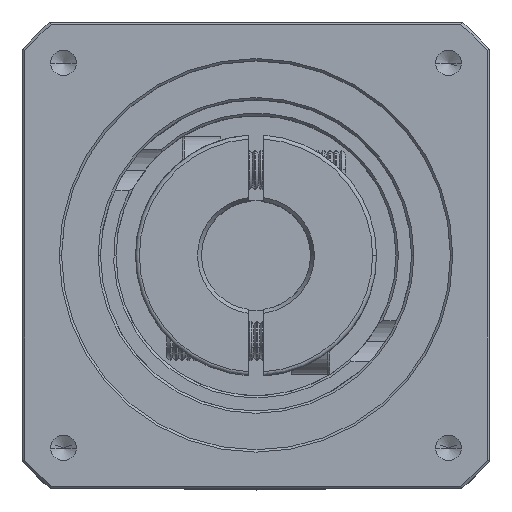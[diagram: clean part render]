
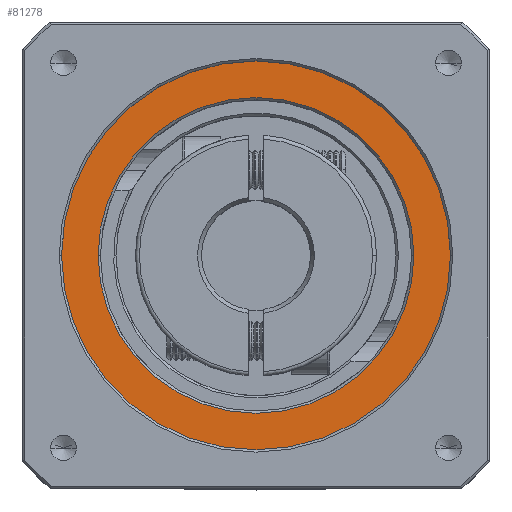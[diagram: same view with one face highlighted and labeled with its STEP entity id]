
A CAD part, top view. The second image highlights one B-rep face of the part: STEP entity #81278.
In plain terms, the highlighted planar face has unit normal (0, 0, 1).
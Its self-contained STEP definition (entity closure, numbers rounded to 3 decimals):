
#4085 = CARTESIAN_POINT ( 'NONE',  ( -41.65, 15.141, 12.222 ) ) ;
#6796 = VERTEX_POINT ( 'NONE', #65804 ) ;
#7591 = CARTESIAN_POINT ( 'NONE',  ( -66.65, 15.141, 12.222 ) ) ;
#8962 = EDGE_CURVE ( 'NONE', #6796, #13189, #37288, .T. ) ;
#13189 = VERTEX_POINT ( 'NONE', #35351 ) ;
#15175 = DIRECTION ( 'NONE',  ( 1., 0., 0. ) ) ;
#17387 = AXIS2_PLACEMENT_3D ( 'NONE', #7591, #60214, #15175 ) ;
#18223 = EDGE_CURVE ( 'NONE', #78092, #88802, #53203, .T. ) ;
#18276 = CIRCLE ( 'NONE', #17387, 25. ) ;
#20321 = FACE_BOUND ( 'NONE', #84818, .T. ) ;
#28158 = CARTESIAN_POINT ( 'NONE',  ( -66.65, 15.141, 12.222 ) ) ;
#31281 = AXIS2_PLACEMENT_3D ( 'NONE', #33604, #86164, #41151 ) ;
#31783 = DIRECTION ( 'NONE',  ( 0., 0., 1. ) ) ;
#31843 = EDGE_CURVE ( 'NONE', #13189, #6796, #60466, .T. ) ;
#32766 = DIRECTION ( 'NONE',  ( 0., 0., -1. ) ) ;
#33604 = CARTESIAN_POINT ( 'NONE',  ( -66.65, 15.141, 12.222 ) ) ;
#35351 = CARTESIAN_POINT ( 'NONE',  ( -46.35, 15.141, 12.222 ) ) ;
#35724 = DIRECTION ( 'NONE',  ( 1., 0., 0. ) ) ;
#37288 = CIRCLE ( 'NONE', #65571, 20.3 ) ;
#41151 = DIRECTION ( 'NONE',  ( 1., 0., 0. ) ) ;
#53203 = CIRCLE ( 'NONE', #31281, 25. ) ;
#55988 = AXIS2_PLACEMENT_3D ( 'NONE', #77732, #32766, #85337 ) ;
#60214 = DIRECTION ( 'NONE',  ( 0., 0., 1. ) ) ;
#60466 = CIRCLE ( 'NONE', #55988, 20.3 ) ;
#62637 = AXIS2_PLACEMENT_3D ( 'NONE', #76743, #31783, #84352 ) ;
#65571 = AXIS2_PLACEMENT_3D ( 'NONE', #28158, #80673, #35724 ) ;
#65804 = CARTESIAN_POINT ( 'NONE',  ( -86.95, 15.141, 12.222 ) ) ;
#67437 = EDGE_CURVE ( 'NONE', #88802, #78092, #18276, .T. ) ;
#69646 = ORIENTED_EDGE ( 'NONE', *, *, #18223, .T. ) ;
#72902 = ORIENTED_EDGE ( 'NONE', *, *, #67437, .T. ) ;
#76416 = PLANE ( 'NONE',  #62637 ) ;
#76743 = CARTESIAN_POINT ( 'NONE',  ( -66.65, 15.141, 12.222 ) ) ;
#77732 = CARTESIAN_POINT ( 'NONE',  ( -66.65, 15.141, 12.222 ) ) ;
#77904 = FACE_OUTER_BOUND ( 'NONE', #79387, .T. ) ;
#78092 = VERTEX_POINT ( 'NONE', #79489 ) ;
#79387 = EDGE_LOOP ( 'NONE', ( #72902, #69646 ) ) ;
#79489 = CARTESIAN_POINT ( 'NONE',  ( -91.65, 15.141, 12.222 ) ) ;
#80673 = DIRECTION ( 'NONE',  ( 0., 0., -1. ) ) ;
#81278 = ADVANCED_FACE ( 'NONE', ( #20321, #77904 ), #76416, .T. ) ;
#84352 = DIRECTION ( 'NONE',  ( 1., 0., 0. ) ) ;
#84818 = EDGE_LOOP ( 'NONE', ( #86874, #89063 ) ) ;
#85337 = DIRECTION ( 'NONE',  ( 1., 0., 0. ) ) ;
#86164 = DIRECTION ( 'NONE',  ( 0., 0., 1. ) ) ;
#86874 = ORIENTED_EDGE ( 'NONE', *, *, #31843, .T. ) ;
#88802 = VERTEX_POINT ( 'NONE', #4085 ) ;
#89063 = ORIENTED_EDGE ( 'NONE', *, *, #8962, .T. ) ;
